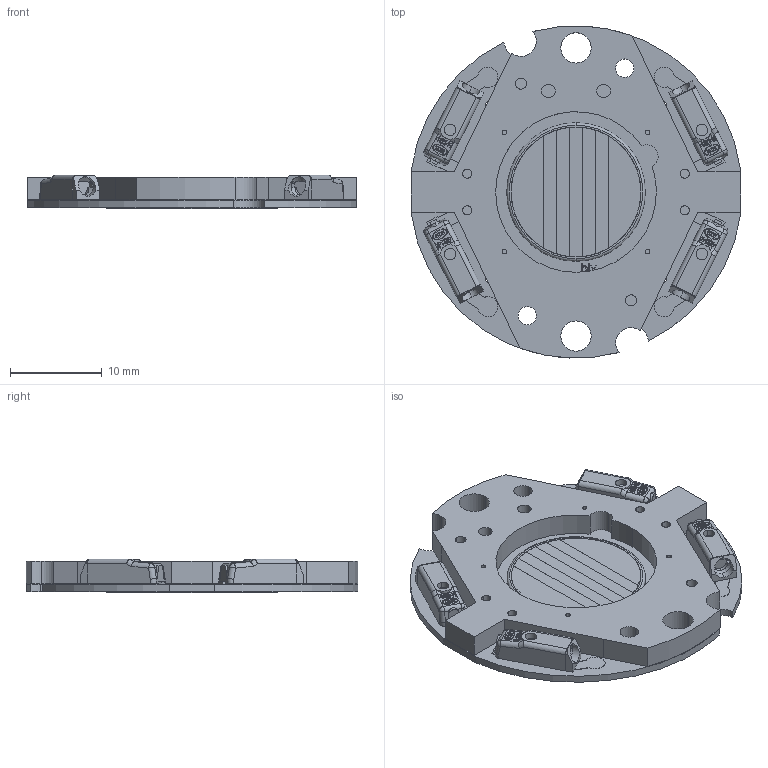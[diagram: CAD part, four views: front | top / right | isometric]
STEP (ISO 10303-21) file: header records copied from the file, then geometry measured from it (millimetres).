
FILE_DESCRIPTION (( 'STEP AP214' ), '1' );
FILE_NAME ('NTW 13 Holder-CoB Assembly.STEP', '2020-06-22T22:13:36', ( '' ), ( '' ), 'SwSTEP 2.0', 'SolidWorks 2020', '' );
FILE_SCHEMA (( 'AUTOMOTIVE_DESIGN' ));
Length unit declared in the file: millimetre
Products named in the file (1): NTW 13 Holder-CoB Assembly
Bounding box: 35.86 x 36.17 x 3.69 mm (x, y, z)
Volume: 2302.1 mm3; surface area: 4202.7 mm2
Topology: 1 solids, 1 shells, 1605 faces, 4388 edges, 2886 vertices
Faces by surface type: plane 987, cylinder 508, bspline 80, torus 18, sphere 8, cone 4
Entity records: 76980 total; most frequent: CARTESIAN_POINT 18551, ORIENTED_EDGE 8760, DIRECTION 8083, EDGE_CURVE 4380, VECTOR 3079, LINE 3079, VERTEX_POINT 2886, AXIS2_PLACEMENT_3D 2502
